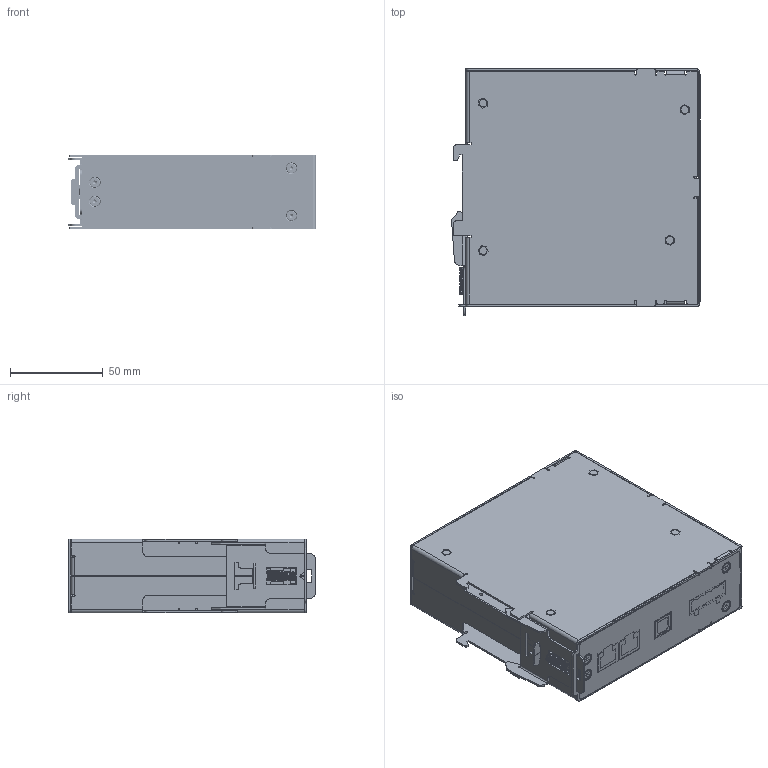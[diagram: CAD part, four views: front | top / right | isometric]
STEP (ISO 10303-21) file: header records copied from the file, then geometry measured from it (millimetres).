
FILE_DESCRIPTION (( 'STEP AP214' ), '1' );
FILE_NAME ('991-24578-00 Modbus RTU Dumb Solid.STEP', '2023-02-20T20:47:00', ( '' ), ( '' ), 'SwSTEP 2.0', 'SolidWorks 2019', '' );
FILE_SCHEMA (( 'AUTOMOTIVE_DESIGN' ));
Length unit declared in the file: millimetre
Products named in the file (1): 991-24578-00 Modbus RTU Dumb Solid
Bounding box: 134.14 x 133.35 x 39.6 mm (x, y, z)
Volume: 88929.8 mm3; surface area: 178779.2 mm2
Topology: 70 solids, 70 shells, 5053 faces, 13319 edges, 8613 vertices
Faces by surface type: plane 3024, cylinder 1467, bspline 305, cone 161, torus 80, sphere 16
Entity records: 230745 total; most frequent: CARTESIAN_POINT 51189, ORIENTED_EDGE 26574, DIRECTION 25182, EDGE_CURVE 13287, LINE 9106, VECTOR 9106, VERTEX_POINT 8613, AXIS2_PLACEMENT_3D 8038
